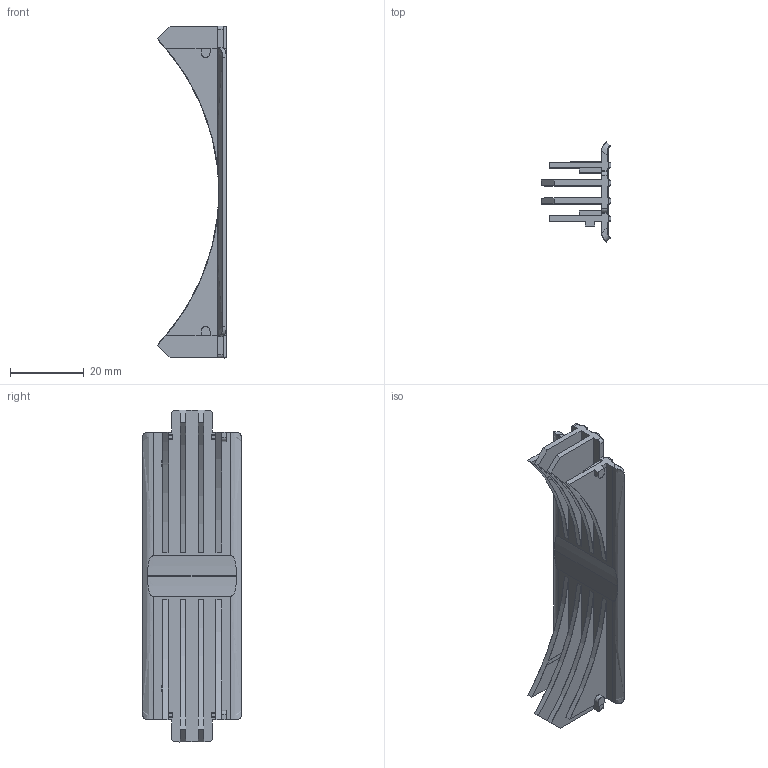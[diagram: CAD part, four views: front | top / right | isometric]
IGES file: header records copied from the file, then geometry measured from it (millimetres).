
Start section: SolidWorks IGES file using analytic representation for surfaces
Global section: file name: D:\OneDrive - Crafterwork\Deepcool\6. Fan\FAN 183 FX30 MACH\湖荂恅璃\120.IGS; native system: SolidWorks 2020; preprocessor: SolidWorks 2020; author: Admin; date: 250224.101606; units: millimetre
Bounding box: 18.88 x 27 x 90 mm (x, y, z)
Surface area: 8744.3 mm2 (no closed solid volume)
Topology: 0 solids, 0 shells, 181 faces, 1832 edges, 1828 vertices
Faces by surface type: bspline 159, revolution 22
